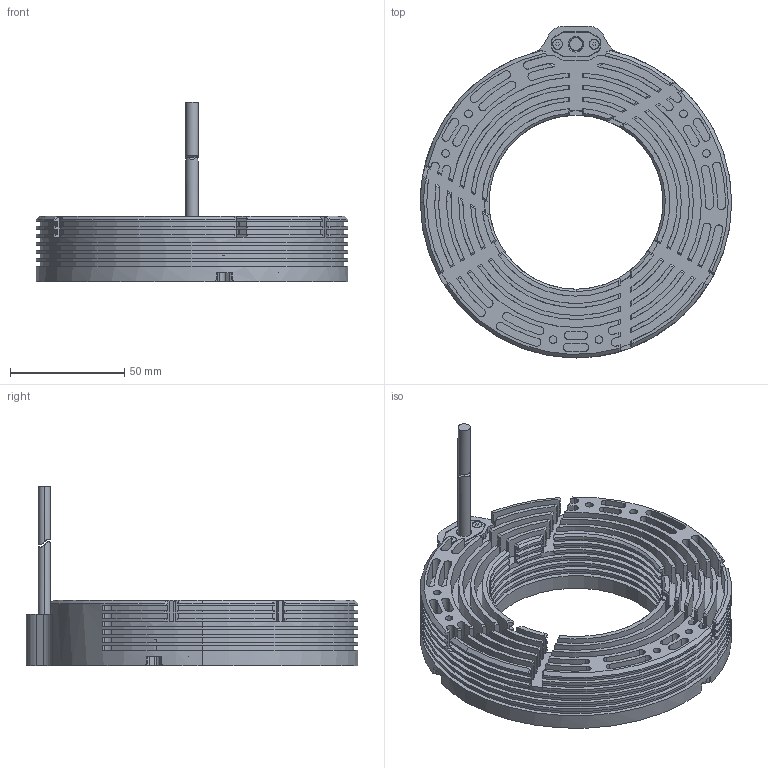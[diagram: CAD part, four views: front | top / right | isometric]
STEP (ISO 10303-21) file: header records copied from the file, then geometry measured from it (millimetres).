
FILE_DESCRIPTION (( 'STEP AP214' ), '1' );
FILE_NAME ('M-HPRING-EC-xxx-xx-xx_CLIENT.STEP', '2026-06-04T13:01:52', ( '' ), ( '' ), 'SwSTEP 2.0', 'SolidWorks 2025', '' );
FILE_SCHEMA (( 'AUTOMOTIVE_DESIGN' ));
Length unit declared in the file: millimetre
Products named in the file (1): M-HPRING-EC-xxx-xx-xx_CLIENT
Bounding box: 136 x 145 x 78.45 mm (x, y, z)
Volume: 218866.2 mm3; surface area: 85579.5 mm2
Topology: 2 solids, 2 shells, 859 faces, 2339 edges, 1551 vertices
Faces by surface type: plane 418, cylinder 411, cone 16, bspline 14
Entity records: 28005 total; most frequent: CARTESIAN_POINT 5877, DIRECTION 4701, ORIENTED_EDGE 4678, EDGE_CURVE 2339, AXIS2_PLACEMENT_3D 1739, VERTEX_POINT 1551, VECTOR 1223, LINE 1223
